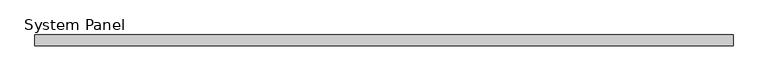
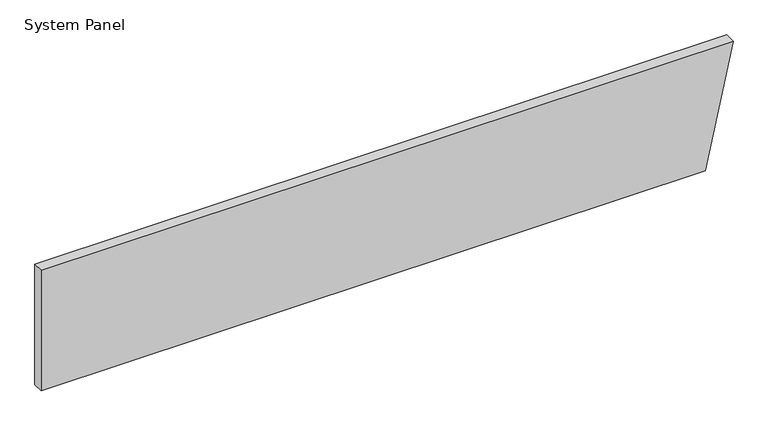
"""IFC4 building model written with IfcOpenShell, lengths in millimetres: plate geometry, System Panel : Equitilt_FlameGuard_100mm_Plain_Surfmist."""

from ifc_helpers import new_model, si_unit, frame, origin, place, context, project, spatial, polyline, outline, extrude, source, transform, mapped, element, save


def system_panel_5e4a4081(model_context):
    return source(origin(), model_context, "Body", "SweptSolid", [
        extrude(outline(polyline([(0.0, -3255.8716619), (0.0, 2995.0), (1200.0, 3255.8716619), (1200.0, -3255.8716619), (0.0, -3255.8716619)])), frame((0.0, -100.0, 0.0), z_axis=(0.0, 1.0, 0.0), x_axis=(0.0, 0.0, 1.0)), (0.0, 0.0, 1.0), 100.0),
    ])


if __name__ == "__main__":
    model = new_model("IFC4")
    model_context = context("Model", 3, world=origin())
    ifc_project = project(units=[si_unit("LENGTHUNIT", "METRE", prefix="MILLI")], contexts=[model_context])
    site = spatial("IfcSite", under=ifc_project)
    building = spatial("IfcBuilding", under=site)
    placement = place(None, origin())
    system_panel_shape = system_panel_5e4a4081(model_context)
    element("IfcPlate", 1, ObjectType="System Panel : Equitilt_FlameGuard_100mm_Plain_Surfmist", at=placement, inside=building, context=model_context, shape_type="MappedRepresentation", body=[
        mapped(system_panel_shape, transform((0.0, 0.0, 0.0), x_axis=(1.0, 0.0, 0.0), y_axis=(0.0, 1.0, 0.0), z_axis=(0.0, 0.0, 1.0))),
    ])
    save(model, "model.ifc")
